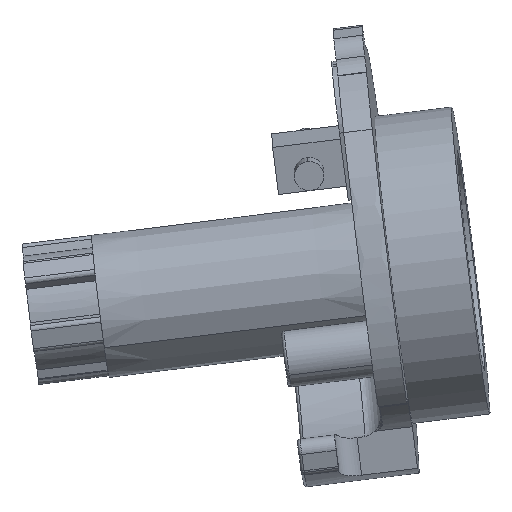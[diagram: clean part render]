
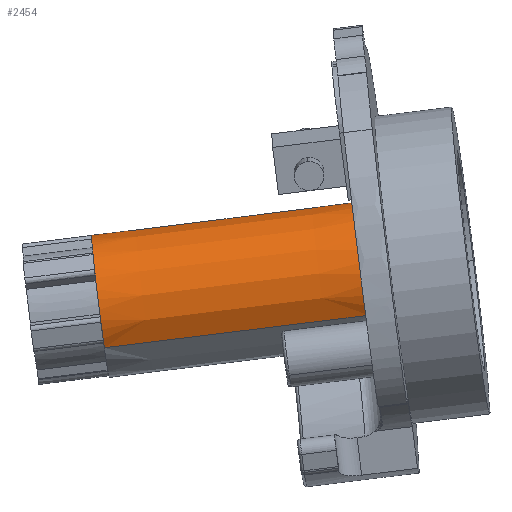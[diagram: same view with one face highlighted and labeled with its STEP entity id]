
A CAD part, front view. The second image highlights one B-rep face of the part: STEP entity #2454.
In plain terms, the highlighted conical face has half-angle 0.1 degrees and reference radius 5.124 mm.
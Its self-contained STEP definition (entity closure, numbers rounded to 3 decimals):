
#2430=AXIS2_PLACEMENT_3D('Cone Axis2P3D',#2427,#2428,#2429) ;
#2434=AXIS2_PLACEMENT_3D('Circle Axis2P3D',#2432,#2433,$) ;
#2441=AXIS2_PLACEMENT_3D('Circle Axis2P3D',#2439,#2440,$) ;
#2269=CARTESIAN_POINT('Vertex',(1103.781,-934.711,256.143)) ;
#2273=CARTESIAN_POINT('Control Point',(1103.248,-935.496,260.294)) ;
#2274=CARTESIAN_POINT('Control Point',(1103.311,-935.631,259.762)) ;
#2275=CARTESIAN_POINT('Control Point',(1103.378,-935.692,259.212)) ;
#2276=CARTESIAN_POINT('Control Point',(1103.447,-935.678,258.656)) ;
#2277=CARTESIAN_POINT('Control Point',(1103.558,-935.535,257.788)) ;
#2278=CARTESIAN_POINT('Control Point',(1103.666,-935.211,256.976)) ;
#2279=CARTESIAN_POINT('Control Point',(1103.705,-935.067,256.685)) ;
#2280=CARTESIAN_POINT('Control Point',(1103.744,-934.899,256.406)) ;
#2281=CARTESIAN_POINT('Control Point',(1103.781,-934.711,256.143)) ;
#2282=CARTESIAN_POINT('Vertex',(1103.248,-935.496,260.294)) ;
#2286=CARTESIAN_POINT('Control Point',(1103.005,-934.303,262.491)) ;
#2287=CARTESIAN_POINT('Control Point',(1103.042,-934.647,262.12)) ;
#2288=CARTESIAN_POINT('Control Point',(1103.087,-934.944,261.706)) ;
#2289=CARTESIAN_POINT('Control Point',(1103.136,-935.188,261.257)) ;
#2290=CARTESIAN_POINT('Control Point',(1103.191,-935.372,260.783)) ;
#2291=CARTESIAN_POINT('Control Point',(1103.248,-935.496,260.294)) ;
#2292=CARTESIAN_POINT('Vertex',(1103.005,-934.303,262.491)) ;
#2296=CARTESIAN_POINT('Control Point',(1103.136,-927.111,262.805)) ;
#2297=CARTESIAN_POINT('Control Point',(1103.08,-927.517,263.175)) ;
#2298=CARTESIAN_POINT('Control Point',(1103.03,-927.974,263.491)) ;
#2299=CARTESIAN_POINT('Control Point',(1102.987,-928.472,263.742)) ;
#2300=CARTESIAN_POINT('Control Point',(1102.918,-929.525,264.105)) ;
#2301=CARTESIAN_POINT('Control Point',(1102.883,-930.638,264.175)) ;
#2302=CARTESIAN_POINT('Control Point',(1102.874,-931.196,264.135)) ;
#2303=CARTESIAN_POINT('Control Point',(1102.877,-932.23,263.917)) ;
#2304=CARTESIAN_POINT('Control Point',(1102.913,-933.173,263.448)) ;
#2305=CARTESIAN_POINT('Control Point',(1102.937,-933.589,263.174)) ;
#2306=CARTESIAN_POINT('Control Point',(1102.968,-933.968,262.853)) ;
#2307=CARTESIAN_POINT('Control Point',(1103.005,-934.303,262.491)) ;
#2308=CARTESIAN_POINT('Vertex',(1103.136,-927.111,262.805)) ;
#2312=CARTESIAN_POINT('Control Point',(1103.25,-926.408,262.014)) ;
#2313=CARTESIAN_POINT('Control Point',(1103.226,-926.531,262.186)) ;
#2314=CARTESIAN_POINT('Control Point',(1103.202,-926.663,262.351)) ;
#2315=CARTESIAN_POINT('Control Point',(1103.179,-926.805,262.511)) ;
#2316=CARTESIAN_POINT('Control Point',(1103.157,-926.954,262.662)) ;
#2317=CARTESIAN_POINT('Control Point',(1103.136,-927.111,262.805)) ;
#2318=CARTESIAN_POINT('Vertex',(1103.25,-926.408,262.014)) ;
#2390=CARTESIAN_POINT('Line Origine',(495787.435,-13317.568,60983.237)) ;
#2394=CARTESIAN_POINT('Vertex',(1122.594,-935.182,258.453)) ;
#2397=CARTESIAN_POINT('Line Origine',(495696.201,-11890.211,61992.402)) ;
#2401=CARTESIAN_POINT('Vertex',(1122.06,-926.825,264.361)) ;
#2427=CARTESIAN_POINT('Axis2P3D Location',(1122.327,-931.003,261.407)) ;
#2432=CARTESIAN_POINT('Axis2P3D Location',(1122.327,-931.003,261.407)) ;
#2436=CARTESIAN_POINT('Vertex',(1122.212,-936.126,261.361)) ;
#2439=CARTESIAN_POINT('Axis2P3D Location',(1122.327,-931.003,261.407)) ;
#2391=DIRECTION('Vector Direction',(0.992,-0.025,0.122)) ;
#2398=DIRECTION('Vector Direction',(0.992,-0.022,0.124)) ;
#2428=DIRECTION('Axis2P3D Direction',(0.992,-0.023,0.123)) ;
#2429=DIRECTION('Axis2P3D XDirection',(-0.052,0.815,0.577)) ;
#2433=DIRECTION('Axis2P3D Direction',(0.992,-0.023,0.123)) ;
#2440=DIRECTION('Axis2P3D Direction',(0.992,-0.023,0.123)) ;
#2392=VECTOR('Line Direction',#2391,1.) ;
#2399=VECTOR('Line Direction',#2398,1.) ;
#2445=ORIENTED_EDGE('',*,*,#2403,.T.) ;
#2446=ORIENTED_EDGE('',*,*,#2320,.F.) ;
#2447=ORIENTED_EDGE('',*,*,#2310,.F.) ;
#2448=ORIENTED_EDGE('',*,*,#2294,.F.) ;
#2449=ORIENTED_EDGE('',*,*,#2284,.F.) ;
#2450=ORIENTED_EDGE('',*,*,#2396,.T.) ;
#2451=ORIENTED_EDGE('',*,*,#2438,.F.) ;
#2452=ORIENTED_EDGE('',*,*,#2443,.F.) ;
#2454=ADVANCED_FACE('\X2\4F5379EF\X0\.1',(#2453),#2431,.T.) ;
#2272=B_SPLINE_CURVE_WITH_KNOTS('',5,(#2273,#2274,#2275,#2276,#2277,#2278,#2279,#2280,#2281),.UNSPECIFIED.,.F.,.U.,(6,3,6),(0.,3.908,6.213),.UNSPECIFIED.) ;
#2285=B_SPLINE_CURVE_WITH_KNOTS('',5,(#2286,#2287,#2288,#2289,#2290,#2291),.UNSPECIFIED.,.F.,.U.,(6,6),(0.,3.589),.UNSPECIFIED.) ;
#2295=B_SPLINE_CURVE_WITH_KNOTS('',5,(#2296,#2297,#2298,#2299,#2300,#2301,#2302,#2303,#2304,#2305,#2306,#2307),.UNSPECIFIED.,.F.,.U.,(6,3,3,6),(0.,3.908,7.816,11.31),.UNSPECIFIED.) ;
#2311=B_SPLINE_CURVE_WITH_KNOTS('',5,(#2312,#2313,#2314,#2315,#2316,#2317),.UNSPECIFIED.,.F.,.U.,(6,6),(0.,1.507),.UNSPECIFIED.) ;
#2435=CIRCLE('generated circle',#2434,5.124) ;
#2442=CIRCLE('generated circle',#2441,5.124) ;
#2431=CONICAL_SURFACE('Cone',#2430,5.124,0.002) ;
#2284=EDGE_CURVE('',#2270,#2283,#2272,.F.) ;
#2294=EDGE_CURVE('',#2283,#2293,#2285,.F.) ;
#2310=EDGE_CURVE('',#2293,#2309,#2295,.F.) ;
#2320=EDGE_CURVE('',#2309,#2319,#2311,.F.) ;
#2396=EDGE_CURVE('',#2270,#2395,#2393,.T.) ;
#2403=EDGE_CURVE('',#2402,#2319,#2400,.F.) ;
#2438=EDGE_CURVE('',#2437,#2395,#2435,.T.) ;
#2443=EDGE_CURVE('',#2402,#2437,#2442,.T.) ;
#2444=EDGE_LOOP('',(#2445,#2446,#2447,#2448,#2449,#2450,#2451,#2452)) ;
#2453=FACE_OUTER_BOUND('',#2444,.T.) ;
#2393=LINE('Line',#2390,#2392) ;
#2400=LINE('Line',#2397,#2399) ;
#2270=VERTEX_POINT('',#2269) ;
#2283=VERTEX_POINT('',#2282) ;
#2293=VERTEX_POINT('',#2292) ;
#2309=VERTEX_POINT('',#2308) ;
#2319=VERTEX_POINT('',#2318) ;
#2395=VERTEX_POINT('',#2394) ;
#2402=VERTEX_POINT('',#2401) ;
#2437=VERTEX_POINT('',#2436) ;
